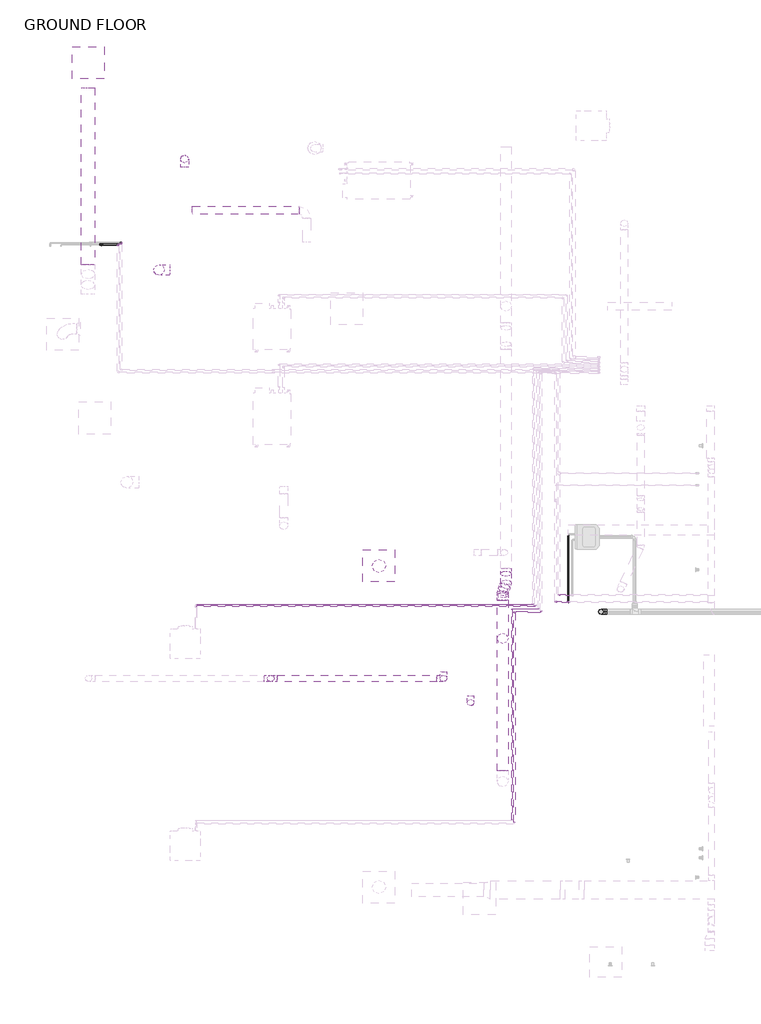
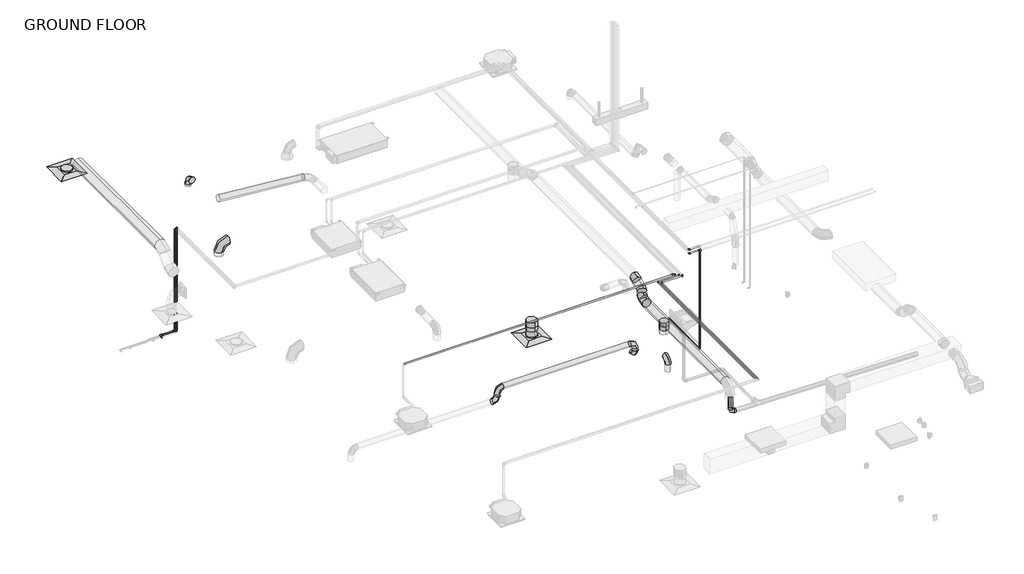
# One storey, part 11 of 21: 20 pipe fittings, 16 pipe segments, 14 duct segments, 13 duct fittings, 2 air terminals.
"""IFC4 building model written with IfcOpenShell, lengths in millimetres."""

from ifc_helpers import new_model, si_unit, point, frame, frame_2d, origin, place, context, project, spatial, circle_curve, trimmed, segment, composite_curve, outline, extrude, transform, mapped, element, save
from components import air_terminal_a1f6e78c, round_elbow_1_d_a253342a, round_elbow_1_d_b37ad80b, round_elbow_1_d_c80420c1, round_elbow_1_d_9364b203, round_elbow_1_d_5bbd179f, round_takeoff_standard_37489045, round_takeoff_standard_1d5c4ba7, bend_pvc_sch_40_dwv_standard_db232f92, elbow_generic_standard_787ffbaa, elbow_generic_standard_c06ac706, elbow_generic_standard_a088f956, tee_generic_standard_d345b28c, transition_generic_standard_19d9bb8b, transition_generic_standard_6299f23b

model = new_model("IFC4")

# Units and contexts
model_context = context("Model", 3, world=origin())
ifc_project = project(units=[si_unit("LENGTHUNIT", "METRE", prefix="MILLI")], contexts=[model_context])

# Site, building, storey
site = spatial("IfcSite", under=ifc_project)
building = spatial("IfcBuilding", under=site)
storey = spatial("IfcBuildingStorey", under=building, Name="GROUND FLOOR", Elevation=30480.0)

# Air terminals
placement = place(None, origin())
air_terminal_shape = air_terminal_a1f6e78c(model_context)
element("IfcAirTerminal", 1, ObjectType="Supply Diffuser - Rectangular Face Round Neck - Hosted : 24\"x24\" Face 10\" Neck - Hosted", at=placement, inside=storey, context=model_context, shape_type="MappedRepresentation", body=[
    mapped(air_terminal_shape, transform((-19120.4829607, 13294.7195005, 33020.0), x_axis=(-1.0, 0.0, 0.0), y_axis=(0.0, 1.0, 0.0), z_axis=(0.0, 0.0, -1.0))),
])
element("IfcAirTerminal", 2, ObjectType="Supply Diffuser - Rectangular Face Round Neck - Hosted : 24\"x24\" Face 10\" Neck - Hosted", at=placement, inside=storey, context=model_context, shape_type="MappedRepresentation", body=[
    mapped(air_terminal_shape, transform((-13605.5079607, 3749.0820005, 32715.2), x_axis=(-1.0, 0.0, 0.0), y_axis=(0.0, 1.0, 0.0), z_axis=(0.0, 0.0, -1.0))),
])

# Duct fittings
round_elbow_1_d_shape = round_elbow_1_d_a253342a(model_context)
element("IfcDuctFitting", 3, ObjectType="Round Elbow : 1 D", at=placement, inside=storey, context=model_context, shape_type="MappedRepresentation", body=[
    mapped(round_elbow_1_d_shape, transform((-17775.8704607, 9360.8945005, 33121.6), x_axis=(0.0, 0.0, 1.0), y_axis=(1.0, 0.0, 0.0), z_axis=(0.0, 1.0, 0.0))),
])
round_elbow_1_d_2_shape = round_elbow_1_d_b37ad80b(model_context)
element("IfcDuctFitting", 4, ObjectType="Round Elbow : 1 D", at=placement, inside=storey, context=model_context, shape_type="MappedRepresentation", body=[
    mapped(round_elbow_1_d_2_shape, transform((-17291.6829607, 11465.9195005, 33324.8), x_axis=(0.0, 0.0, 1.0), y_axis=(0.0, -1.0, 0.0), z_axis=(1.0, 0.0, 0.0))),
])
round_elbow_1_d_3_shape = round_elbow_1_d_c80420c1(model_context)
element("IfcDuctFitting", 5, ObjectType="Round Elbow : 1 D", at=placement, inside=storey, context=model_context, shape_type="MappedRepresentation", body=[
    mapped(round_elbow_1_d_3_shape, transform((-11866.4513201, 1153.5195005, 33121.6), x_axis=(0.0, 0.0, 1.0), y_axis=(0.0, 1.0, 0.0), z_axis=(-1.0, 0.0, 0.0))),
])
element("IfcDuctFitting", 6, ObjectType="Round Elbow : 1 D", at=placement, inside=storey, context=model_context, shape_type="MappedRepresentation", body=[
    mapped(round_elbow_1_d_3_shape, transform((-15656.5579607, 1613.8945005, 33121.6), x_axis=(1.0, 0.0, 0.0), y_axis=(0.0, 0.0, 1.0), z_axis=(0.0, -1.0, 0.0))),
])
element("IfcDuctFitting", 7, ObjectType="Round Elbow : 1 D", at=placement, inside=storey, context=model_context, shape_type="MappedRepresentation", body=[
    mapped(round_elbow_1_d_3_shape, transform((-15656.5579607, 1613.8945005, 33426.4), x_axis=(0.0, 0.0, 1.0), y_axis=(1.0, 0.0, 0.0), z_axis=(0.0, 1.0, 0.0))),
])
element("IfcDuctFitting", 8, ObjectType="Round Elbow : 1 D", at=placement, inside=storey, context=model_context, shape_type="MappedRepresentation", body=[
    mapped(round_elbow_1_d_3_shape, transform((-12379.8126806, 1613.8945005, 33426.4), x_axis=(1.0, 0.0, 0.0), y_axis=(0.0, 0.0, -1.0), z_axis=(0.0, 1.0, 0.0))),
])
element("IfcDuctFitting", 9, ObjectType="Round Elbow : 1 D", at=placement, inside=storey, context=model_context, shape_type="MappedRepresentation", body=[
    mapped(round_elbow_1_d_3_shape, transform((-12379.8126806, 1613.8945005, 33121.6), x_axis=(0.0, 0.0, -1.0), y_axis=(0.0, 1.0, 0.0), z_axis=(1.0, 0.0, 0.0))),
])
round_elbow_1_d_4_shape = round_elbow_1_d_9364b203(model_context)
element("IfcDuctFitting", 10, ObjectType="Round Elbow : 1 D", at=placement, inside=storey, context=model_context, shape_type="MappedRepresentation", body=[
    mapped(round_elbow_1_d_4_shape, transform((-11194.8892107, 3645.7099951, 33401.0), x_axis=(0.0, -1.0, 0.0), y_axis=(0.0, 0.0, -1.0), z_axis=(1.0, 0.0, 0.0))),
])
element("IfcDuctFitting", 11, ObjectType="Round Elbow : 1 D", at=placement, inside=storey, context=model_context, shape_type="MappedRepresentation", body=[
    mapped(round_elbow_1_d_4_shape, transform((-11256.8513201, 3144.8540791, 33121.6), x_axis=(0.0, 1.0, 0.0), y_axis=(0.0, 0.0, 1.0), z_axis=(1.0, 0.0, 0.0))),
])
round_elbow_1_d_5_shape = round_elbow_1_d_5bbd179f(model_context)
element("IfcDuctFitting", 12, ObjectType="Round Elbow : 1 D", at=placement, inside=storey, context=model_context, shape_type="MappedRepresentation", body=[
    mapped(round_elbow_1_d_5_shape, transform((-11194.8892107, 3397.4009398, 33262.4820194), x_axis=(0.3723469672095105, 0.8105107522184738, 0.4521394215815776), y_axis=(-0.928093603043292, 0.32517325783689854, 0.18139629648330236), z_axis=(0.0, -0.4871700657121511, 0.8733071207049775))),
])
element("IfcDuctFitting", 13, ObjectType="Round Elbow : 1 D", at=placement, inside=storey, context=model_context, shape_type="MappedRepresentation", body=[
    mapped(round_elbow_1_d_5_shape, transform((-11256.8513201, 3262.5241708, 33187.2416797), x_axis=(-0.372346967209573, -0.8105107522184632, -0.45213942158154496), y_axis=(0.9280936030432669, -0.325173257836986, -0.18139629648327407), z_axis=(0.0, -0.48717006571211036, 0.8733071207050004))),
])
round_takeoff_standard_shape = round_takeoff_standard_37489045(model_context)
element("IfcDuctFitting", 14, ObjectType="Round Takeoff : Standard", at=placement, inside=storey, context=model_context, shape_type="MappedRepresentation", body=[
    mapped(round_takeoff_standard_shape, transform((-13605.5079607, 3749.0820005, 32998.8880493), x_axis=(0.0, 0.0, -1.0), y_axis=(1.0, 0.0, 0.0), z_axis=(0.0, -1.0, 0.0))),
])
round_takeoff_standard_2_shape = round_takeoff_standard_1d5c4ba7(model_context)
element("IfcDuctFitting", 15, ObjectType="Round Takeoff : Standard", at=placement, inside=storey, context=model_context, shape_type="MappedRepresentation", body=[
    mapped(round_takeoff_standard_2_shape, transform((-11256.8513201, 2372.7195005, 33020.0), x_axis=(0.0, 0.0, -1.0), y_axis=(0.0, -1.0, 0.0), z_axis=(-1.0, 0.0, 0.0))),
])

# Duct segments
element("IfcDuctSegment", 16, ObjectType="Taps / Short Radius", at=placement, inside=storey, context=model_context, shape_type="SweptSolid", body=[
    extrude(outline(composite_curve([segment(trimmed(circle_curve(frame_2d((-17775.8704607, 9360.8945005)), 101.6), [point((-17775.8704607, 9462.4945005))], [point((-17674.2704607, 9360.8945005))], False, "CARTESIAN"), True, "CONTINUOUS"), segment(trimmed(circle_curve(frame_2d((-17775.8704607, 9360.8945005)), 101.6), [point((-17674.2704607, 9360.8945005))], [point((-17775.8704607, 9259.2945005))], False, "CARTESIAN"), True, "CONTINUOUS"), segment(trimmed(circle_curve(frame_2d((-17775.8704607, 9360.8945005)), 101.6), [point((-17775.8704607, 9259.2945005))], [point((-17877.4704607, 9360.8945005))], False, "CARTESIAN"), True, "CONTINUOUS"), segment(trimmed(circle_curve(frame_2d((-17775.8704607, 9360.8945005)), 101.6), [point((-17877.4704607, 9360.8945005))], [point((-17775.8704607, 9462.4945005))], False, "CARTESIAN"), True, "CONTINUOUS")], self_intersect=False)), frame((0.0, 0.0, 32816.8), z_axis=(0.0, 0.0, 1.0), x_axis=(1.0, 0.0, 0.0)), (0.0, 0.0, 1.0), 101.6),
])
element("IfcDuctSegment", 17, ObjectType="Taps / Short Radius", at=placement, inside=storey, context=model_context, shape_type="SweptSolid", body=[
    extrude(outline(composite_curve([segment(trimmed(circle_curve(frame_2d((-17291.6829607, 11465.9195005)), 76.2), [point((-17367.8829607, 11465.9195005))], [point((-17291.6829607, 11542.1195005))], False, "CARTESIAN"), True, "CONTINUOUS"), segment(trimmed(circle_curve(frame_2d((-17291.6829607, 11465.9195005)), 76.2), [point((-17291.6829607, 11542.1195005))], [point((-17215.4829607, 11465.9195005))], False, "CARTESIAN"), True, "CONTINUOUS"), segment(trimmed(circle_curve(frame_2d((-17291.6829607, 11465.9195005)), 76.2), [point((-17215.4829607, 11465.9195005))], [point((-17291.6829607, 11389.7195005))], False, "CARTESIAN"), True, "CONTINUOUS"), segment(trimmed(circle_curve(frame_2d((-17291.6829607, 11465.9195005)), 76.2), [point((-17291.6829607, 11389.7195005))], [point((-17367.8829607, 11465.9195005))], False, "CARTESIAN"), True, "CONTINUOUS")], self_intersect=False)), frame((0.0, 0.0, 33121.6), z_axis=(0.0, 0.0, 1.0), x_axis=(1.0, 0.0, 0.0)), (0.0, 0.0, 1.0), 50.8),
])
element("IfcDuctSegment", 18, ObjectType="Taps / Short Radius", at=placement, inside=storey, context=model_context, shape_type="SweptSolid", body=[
    extrude(outline(composite_curve([segment(trimmed(circle_curve(frame_2d((-13605.5079607, 3749.0820005)), 127.0), [point((-13478.5079607, 3749.0820005))], [point((-13605.5079607, 3622.0820005))], False, "CARTESIAN"), True, "CONTINUOUS"), segment(trimmed(circle_curve(frame_2d((-13605.5079607, 3749.0820005)), 127.0), [point((-13605.5079607, 3622.0820005))], [point((-13732.5079607, 3749.0820005))], False, "CARTESIAN"), True, "CONTINUOUS"), segment(trimmed(circle_curve(frame_2d((-13605.5079607, 3749.0820005)), 127.0), [point((-13732.5079607, 3749.0820005))], [point((-13605.5079607, 3876.0820005))], False, "CARTESIAN"), True, "CONTINUOUS"), segment(trimmed(circle_curve(frame_2d((-13605.5079607, 3749.0820005)), 127.0), [point((-13605.5079607, 3876.0820005))], [point((-13478.5079607, 3749.0820005))], False, "CARTESIAN"), True, "CONTINUOUS")], self_intersect=False)), frame((0.0, 0.0, 32769.175), z_axis=(0.0, 0.0, 1.0), x_axis=(1.0, 0.0, 0.0)), (0.0, 0.0, 1.0), 128.1010851),
])
element("IfcDuctSegment", 19, ObjectType="Taps / Short Radius", at=placement, inside=storey, context=model_context, shape_type="SweptSolid", body=[
    extrude(outline(composite_curve([segment(trimmed(circle_curve(frame_2d((-11866.4513201, 1153.5195005)), 63.5), [point((-11802.9513201, 1153.5195005))], [point((-11866.4513201, 1090.0195005))], False, "CARTESIAN"), True, "CONTINUOUS"), segment(trimmed(circle_curve(frame_2d((-11866.4513201, 1153.5195005)), 63.5), [point((-11866.4513201, 1090.0195005))], [point((-11929.9513201, 1153.5195005))], False, "CARTESIAN"), True, "CONTINUOUS"), segment(trimmed(circle_curve(frame_2d((-11866.4513201, 1153.5195005)), 63.5), [point((-11929.9513201, 1153.5195005))], [point((-11866.4513201, 1217.0195005))], False, "CARTESIAN"), True, "CONTINUOUS"), segment(trimmed(circle_curve(frame_2d((-11866.4513201, 1153.5195005)), 63.5), [point((-11866.4513201, 1217.0195005))], [point((-11802.9513201, 1153.5195005))], False, "CARTESIAN"), True, "CONTINUOUS")], self_intersect=False)), frame((0.0, 0.0, 32816.8), z_axis=(0.0, 0.0, 1.0), x_axis=(1.0, 0.0, 0.0)), (0.0, 0.0, 1.0), 177.8),
])
element("IfcDuctSegment", 20, ObjectType="Taps / Short Radius", at=placement, inside=storey, context=model_context, shape_type="SweptSolid", body=[
    extrude(outline(composite_curve([segment(trimmed(circle_curve(frame_2d((-15656.5579607, 1613.8945005)), 63.5), [point((-15656.5579607, 1550.3945005))], [point((-15720.0579607, 1613.8945005))], False, "CARTESIAN"), True, "CONTINUOUS"), segment(trimmed(circle_curve(frame_2d((-15656.5579607, 1613.8945005)), 63.5), [point((-15720.0579607, 1613.8945005))], [point((-15656.5579607, 1677.3945005))], False, "CARTESIAN"), True, "CONTINUOUS"), segment(trimmed(circle_curve(frame_2d((-15656.5579607, 1613.8945005)), 63.5), [point((-15656.5579607, 1677.3945005))], [point((-15593.0579607, 1613.8945005))], False, "CARTESIAN"), True, "CONTINUOUS"), segment(trimmed(circle_curve(frame_2d((-15656.5579607, 1613.8945005)), 63.5), [point((-15593.0579607, 1613.8945005))], [point((-15656.5579607, 1550.3945005))], False, "CARTESIAN"), True, "CONTINUOUS")], self_intersect=False)), frame((0.0, 0.0, 33248.6), z_axis=(0.0, 0.0, 1.0), x_axis=(1.0, 0.0, 0.0)), (0.0, 0.0, 1.0), 50.8),
])
element("IfcDuctSegment", 21, ObjectType="Taps / Short Radius", at=placement, inside=storey, context=model_context, shape_type="SweptSolid", body=[
    extrude(outline(composite_curve([segment(trimmed(circle_curve(frame_2d((1613.8945005, 33426.4)), 63.5), [point((1550.3945005, 33426.4))], [point((1613.8945005, 33489.9))], False, "CARTESIAN"), True, "CONTINUOUS"), segment(trimmed(circle_curve(frame_2d((1613.8945005, 33426.4)), 63.5), [point((1613.8945005, 33489.9))], [point((1677.3945005, 33426.4))], False, "CARTESIAN"), True, "CONTINUOUS"), segment(trimmed(circle_curve(frame_2d((1613.8945005, 33426.4)), 63.5), [point((1677.3945005, 33426.4))], [point((1613.8945005, 33362.9))], False, "CARTESIAN"), True, "CONTINUOUS"), segment(trimmed(circle_curve(frame_2d((1613.8945005, 33426.4)), 63.5), [point((1613.8945005, 33362.9))], [point((1550.3945005, 33426.4))], False, "CARTESIAN"), True, "CONTINUOUS")], self_intersect=False)), frame((-15529.5579607, 0.0, 0.0), z_axis=(1.0, 0.0, 0.0), x_axis=(0.0, 1.0, 0.0)), (0.0, 0.0, 1.0), 3022.7452801),
])
element("IfcDuctSegment", 22, ObjectType="Taps / Short Radius", at=placement, inside=storey, context=model_context, shape_type="SweptSolid", body=[
    extrude(outline(composite_curve([segment(trimmed(circle_curve(frame_2d((-12379.8126806, 1613.8945005)), 63.5), [point((-12379.8126806, 1677.3945005))], [point((-12316.3126806, 1613.8945005))], False, "CARTESIAN"), True, "CONTINUOUS"), segment(trimmed(circle_curve(frame_2d((-12379.8126806, 1613.8945005)), 63.5), [point((-12316.3126806, 1613.8945005))], [point((-12379.8126806, 1550.3945005))], False, "CARTESIAN"), True, "CONTINUOUS"), segment(trimmed(circle_curve(frame_2d((-12379.8126806, 1613.8945005)), 63.5), [point((-12379.8126806, 1550.3945005))], [point((-12443.3126806, 1613.8945005))], False, "CARTESIAN"), True, "CONTINUOUS"), segment(trimmed(circle_curve(frame_2d((-12379.8126806, 1613.8945005)), 63.5), [point((-12443.3126806, 1613.8945005))], [point((-12379.8126806, 1677.3945005))], False, "CARTESIAN"), True, "CONTINUOUS")], self_intersect=False)), frame((0.0, 0.0, 33248.6), z_axis=(0.0, 0.0, 1.0), x_axis=(1.0, 0.0, 0.0)), (0.0, 0.0, 1.0), 50.8),
])
element("IfcDuctSegment", 23, ObjectType="Taps / Short Radius", at=placement, inside=storey, context=model_context, shape_type="SweptSolid", body=[
    extrude(outline(composite_curve([segment(trimmed(circle_curve(frame_2d((0.0, -101.6)), 101.6), [point((-101.6, -101.6))], [point((0.0, 0.0))], False, "CARTESIAN"), True, "CONTINUOUS"), segment(trimmed(circle_curve(frame_2d((0.0, -101.6)), 101.6), [point((0.0, 0.0))], [point((101.6, -101.6))], False, "CARTESIAN"), True, "CONTINUOUS"), segment(trimmed(circle_curve(frame_2d((0.0, -101.6)), 101.6), [point((101.6, -101.6))], [point((0.0, -203.2))], False, "CARTESIAN"), True, "CONTINUOUS"), segment(trimmed(circle_curve(frame_2d((0.0, -101.6)), 101.6), [point((0.0, -203.2))], [point((-101.6, -101.6))], False, "CARTESIAN"), True, "CONTINUOUS")], self_intersect=False)), frame((-11256.8513201, 3240.49956, 33058.6159896), z_axis=(0.0, 0.8733071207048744, 0.48717006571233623), x_axis=(1.0, 0.0, 0.0)), (0.0, 0.0, 1.0), 42.6555331),
])
element("IfcDuctSegment", 24, ObjectType="Taps / Short Radius", at=placement, inside=storey, context=model_context, shape_type="SweptSolid", body=[
    extrude(outline(composite_curve([segment(trimmed(circle_curve(frame_2d((0.0, -101.6)), 101.6), [point((-101.6, -101.6))], [point((0.0, 0.0))], False, "CARTESIAN"), True, "CONTINUOUS"), segment(trimmed(circle_curve(frame_2d((0.0, -101.6)), 101.6), [point((0.0, 0.0))], [point((101.6, -101.6))], False, "CARTESIAN"), True, "CONTINUOUS"), segment(trimmed(circle_curve(frame_2d((0.0, -101.6)), 101.6), [point((101.6, -101.6))], [point((0.0, -203.2))], False, "CARTESIAN"), True, "CONTINUOUS"), segment(trimmed(circle_curve(frame_2d((0.0, -101.6)), 101.6), [point((0.0, -203.2))], [point((-101.6, -101.6))], False, "CARTESIAN"), True, "CONTINUOUS")], self_intersect=False)), frame((-11194.8892107, 3481.1671271, 33192.8712037), z_axis=(0.0, 0.8733071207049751, 0.48717006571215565), x_axis=(1.0, 0.0, 0.0)), (0.0, 0.0, 1.0), 192.2466226),
])
element("IfcDuctSegment", 25, ObjectType="Taps / Short Radius", at=placement, inside=storey, context=model_context, shape_type="SweptSolid", body=[
    extrude(outline(composite_curve([segment(trimmed(circle_curve(frame_2d((0.0, -101.6)), 101.6), [point((-99.4767358, -80.9374965))], [point((20.6625035, -2.1232642))], False, "CARTESIAN"), True, "CONTINUOUS"), segment(trimmed(circle_curve(frame_2d((0.0, -101.6)), 101.6), [point((20.6625035, -2.1232642))], [point((99.4767357, -122.2625035))], False, "CARTESIAN"), True, "CONTINUOUS"), segment(trimmed(circle_curve(frame_2d((0.0, -101.6)), 101.6), [point((99.4767357, -122.2625035))], [point((-20.6625035, -201.0767357))], False, "CARTESIAN"), True, "CONTINUOUS"), segment(trimmed(circle_curve(frame_2d((0.0, -101.6)), 101.6), [point((-20.6625035, -201.0767357))], [point((-99.4767358, -80.9374965))], False, "CARTESIAN"), True, "CONTINUOUS")], self_intersect=False)), frame((-11242.2399402, 3343.8261468, 33116.2562159), z_axis=(0.37234696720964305, 0.8105107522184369, 0.4521394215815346), x_axis=(0.928093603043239, -0.3251732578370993, -0.18139629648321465)), (0.0, 0.0, 1.0), 87.9269943),
])
element("IfcDuctSegment", 26, ObjectType="Taps / Short Radius", at=placement, inside=storey, context=model_context, shape_type="SweptSolid", body=[
    extrude(outline(composite_curve([segment(trimmed(circle_curve(frame_2d((-11256.8513201, 2372.7195005)), 101.6), [point((-11256.8513201, 2474.3195005))], [point((-11155.2513201, 2372.7195005))], False, "CARTESIAN"), True, "CONTINUOUS"), segment(trimmed(circle_curve(frame_2d((-11256.8513201, 2372.7195005)), 101.6), [point((-11155.2513201, 2372.7195005))], [point((-11256.8513201, 2271.1195005))], False, "CARTESIAN"), True, "CONTINUOUS"), segment(trimmed(circle_curve(frame_2d((-11256.8513201, 2372.7195005)), 101.6), [point((-11256.8513201, 2271.1195005))], [point((-11358.4513201, 2372.7195005))], False, "CARTESIAN"), True, "CONTINUOUS"), segment(trimmed(circle_curve(frame_2d((-11256.8513201, 2372.7195005)), 101.6), [point((-11358.4513201, 2372.7195005))], [point((-11256.8513201, 2474.3195005))], False, "CARTESIAN"), True, "CONTINUOUS")], self_intersect=False)), frame((0.0, 0.0, 32816.8), z_axis=(0.0, 0.0, 1.0), x_axis=(1.0, 0.0, 0.0)), (0.0, 0.0, 1.0), 101.6),
])
element("IfcDuctSegment", 27, ObjectType="Taps / Short Radius", at=placement, inside=storey, context=model_context, shape_type="SweptSolid", body=[
    extrude(outline(composite_curve([segment(trimmed(circle_curve(frame_2d((33121.6, -11256.8513201)), 101.6), [point((33121.6, -11358.4513201))], [point((33020.0, -11256.8513201))], False, "CARTESIAN"), True, "CONTINUOUS"), segment(trimmed(circle_curve(frame_2d((33121.6, -11256.8513201)), 101.6), [point((33020.0, -11256.8513201))], [point((33121.6, -11155.2513201))], False, "CARTESIAN"), True, "CONTINUOUS"), segment(trimmed(circle_curve(frame_2d((33121.6, -11256.8513201)), 101.6), [point((33121.6, -11155.2513201))], [point((33223.2, -11256.8513201))], False, "CARTESIAN"), True, "CONTINUOUS"), segment(trimmed(circle_curve(frame_2d((33121.6, -11256.8513201)), 101.6), [point((33223.2, -11256.8513201))], [point((33121.6, -11358.4513201))], False, "CARTESIAN"), True, "CONTINUOUS")], self_intersect=False)), frame((0.0, -138.7054995, 0.0), z_axis=(0.0, 1.0, 0.0), x_axis=(0.0, 0.0, 1.0)), (0.0, 0.0, 1.0), 3230.7156235),
])
element("IfcDuctSegment", 28, ObjectType="Taps / Short Radius", at=placement, inside=storey, context=model_context, shape_type="SweptSolid", body=[
    extrude(outline(composite_curve([segment(trimmed(circle_curve(frame_2d((0.0, -76.2)), 76.2), [point((0.0, -152.4))], [point((-76.2000001, -76.2))], False, "CARTESIAN"), True, "CONTINUOUS"), segment(trimmed(circle_curve(frame_2d((0.0, -76.2)), 76.2), [point((-76.2000001, -76.2))], [point((0.0, 0.0))], False, "CARTESIAN"), True, "CONTINUOUS"), segment(trimmed(circle_curve(frame_2d((0.0, -76.2)), 76.2), [point((0.0, 0.0))], [point((76.2, -76.2))], False, "CARTESIAN"), True, "CONTINUOUS"), segment(trimmed(circle_curve(frame_2d((0.0, -76.2)), 76.2), [point((76.2, -76.2))], [point((0.0, -152.4))], False, "CARTESIAN"), True, "CONTINUOUS")], self_intersect=False)), frame((-15121.8533092, 10574.5395797, 33134.8878573), z_axis=(-0.9961916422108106, 0.0, 0.0871906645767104), x_axis=(0.0871906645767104, 0.0, 0.9961916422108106)), (0.0, 0.0, 1.0), 2025.7247298),
])
element("IfcDuctSegment", 29, ObjectType="Taps / Short Radius", at=placement, inside=storey, context=model_context, shape_type="SweptSolid", body=[
    extrude(outline(composite_curve([segment(trimmed(circle_curve(frame_2d((33477.2, -19120.4829607)), 127.0), [point((33477.2, -18993.4829607))], [point((33604.2, -19120.4829607))], False, "CARTESIAN"), True, "CONTINUOUS"), segment(trimmed(circle_curve(frame_2d((33477.2, -19120.4829607)), 127.0), [point((33604.2, -19120.4829607))], [point((33477.2, -19247.4829607))], False, "CARTESIAN"), True, "CONTINUOUS"), segment(trimmed(circle_curve(frame_2d((33477.2, -19120.4829607)), 127.0), [point((33477.2, -19247.4829607))], [point((33350.2, -19120.4829607))], False, "CARTESIAN"), True, "CONTINUOUS"), segment(trimmed(circle_curve(frame_2d((33477.2, -19120.4829607)), 127.0), [point((33350.2, -19120.4829607))], [point((33477.2, -18993.4829607))], False, "CARTESIAN"), True, "CONTINUOUS")], self_intersect=False)), frame((0.0, 9460.0506372, 0.0), z_axis=(0.0, 1.0, 0.0), x_axis=(0.0, 0.0, 1.0)), (0.0, 0.0, 1.0), 3355.4014425),
])

# Pipe fittings
bend_pvc_sch_40_dwv_standard_shape = bend_pvc_sch_40_dwv_standard_db232f92(model_context)
element("IfcPipeFitting", 30, ObjectType="Bend - PVC - Sch 40 - DWV : Standard", at=placement, inside=storey, context=model_context, shape_type="MappedRepresentation", body=[
    mapped(bend_pvc_sch_40_dwv_standard_shape, transform((-9390.6954607, 2877.5445005, 29870.4), x_axis=(0.0, 0.0, -1.0), y_axis=(1.0, 0.0, 0.0), z_axis=(0.0, -1.0, 0.0))),
])
elbow_generic_standard_shape = elbow_generic_standard_787ffbaa(model_context)
element("IfcPipeFitting", 31, ObjectType="Elbow - Generic : Standard", at=placement, inside=storey, context=model_context, shape_type="MappedRepresentation", body=[
    mapped(elbow_generic_standard_shape, transform((-18871.1484822, 9844.2892607, 30835.6), x_axis=(0.0, 0.0, -1.0), y_axis=(0.0, -1.0, 0.0), z_axis=(-1.0, 0.0, 0.0))),
])
elbow_generic_standard_2_shape = elbow_generic_standard_c06ac706(model_context)
element("IfcPipeFitting", 32, ObjectType="Elbow - Generic : Standard", at=placement, inside=storey, context=model_context, shape_type="MappedRepresentation", body=[
    mapped(elbow_generic_standard_2_shape, transform((-10635.1515455, 2984.2674809, 33680.4), x_axis=(1.0, 0.0, 0.0), y_axis=(0.0, 1.0, 0.0), z_axis=(0.0, 0.0, 1.0))),
])
element("IfcPipeFitting", 33, ObjectType="Elbow - Generic : Standard", at=placement, inside=storey, context=model_context, shape_type="MappedRepresentation", body=[
    mapped(elbow_generic_standard_2_shape, transform((-11032.9642107, 2875.8543566, 33680.4), x_axis=(-1.0, 0.0, 0.0), y_axis=(0.0, -1.0, 0.0), z_axis=(0.0, 0.0, 1.0))),
])
element("IfcPipeFitting", 34, ObjectType="Elbow - Generic : Standard", at=placement, inside=storey, context=model_context, shape_type="MappedRepresentation", body=[
    mapped(elbow_generic_standard_2_shape, transform((-10524.9642107, 2875.8543566, 33680.4), x_axis=(1.0, 0.0, 0.0), y_axis=(0.0, 1.0, 0.0), z_axis=(0.0, 0.0, 1.0))),
])
element("IfcPipeFitting", 35, ObjectType="Elbow - Generic : Standard", at=placement, inside=storey, context=model_context, shape_type="MappedRepresentation", body=[
    mapped(elbow_generic_standard_2_shape, transform((-10189.2079607, 3193.0718518, 34023.3), x_axis=(0.0, -1.0, 0.0), y_axis=(0.9999999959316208, 0.0, -9.020398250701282e-05), z_axis=(9.020398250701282e-05, 0.0, 0.9999999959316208))),
])
element("IfcPipeFitting", 36, ObjectType="Elbow - Generic : Standard", at=placement, inside=storey, context=model_context, shape_type="MappedRepresentation", body=[
    mapped(elbow_generic_standard_2_shape, transform((-18495.0079607, 9873.2718518, 33436.8475147), x_axis=(0.0, 1.0, 0.0), y_axis=(0.0, 0.0, -1.0), z_axis=(-1.0, 0.0, 0.0))),
])
element("IfcPipeFitting", 37, ObjectType="Elbow - Generic : Standard", at=placement, inside=storey, context=model_context, shape_type="MappedRepresentation", body=[
    mapped(elbow_generic_standard_2_shape, transform((-10252.7079607, 3066.0718518, 34023.3), x_axis=(0.0, -1.0, 0.0), y_axis=(1.0, 0.0, 0.0), z_axis=(0.0, 0.0, 1.0))),
])
element("IfcPipeFitting", 38, ObjectType="Elbow - Generic : Standard", at=placement, inside=storey, context=model_context, shape_type="MappedRepresentation", body=[
    mapped(elbow_generic_standard_2_shape, transform((-18552.1579607, 9844.2892607, 33436.8475147), x_axis=(0.0, 1.0, 0.0), y_axis=(0.0, 0.0, -1.0), z_axis=(-1.0, 0.0, 0.0))),
])
element("IfcPipeFitting", 39, ObjectType="Elbow - Generic : Standard", at=placement, inside=storey, context=model_context, shape_type="MappedRepresentation", body=[
    mapped(elbow_generic_standard_2_shape, transform((-18552.1579607, 9844.2892607, 30886.4), x_axis=(0.0, 0.0, -1.0), y_axis=(-1.0, 0.0, 0.0), z_axis=(0.0, 1.0, 0.0))),
])
element("IfcPipeFitting", 40, ObjectType="Elbow - Generic : Standard", at=placement, inside=storey, context=model_context, shape_type="MappedRepresentation", body=[
    mapped(elbow_generic_standard_2_shape, transform((-18495.0079607, 9873.2718518, 30835.6), x_axis=(0.0, 0.0, -1.0), y_axis=(-1.0, 0.0, 0.0), z_axis=(0.0, 1.0, 0.0))),
])
elbow_generic_standard_3_shape = elbow_generic_standard_a088f956(model_context)
element("IfcPipeFitting", 41, ObjectType="Elbow - Generic : Standard", at=placement, inside=storey, context=model_context, shape_type="MappedRepresentation", body=[
    mapped(elbow_generic_standard_3_shape, transform((-10682.7765455, 3013.8265677, 33680.4), x_axis=(1.0, 0.0, 0.0), y_axis=(0.0, 1.0, 0.0), z_axis=(0.0, 0.0, 1.0))),
])
element("IfcPipeFitting", 42, ObjectType="Elbow - Generic : Standard", at=placement, inside=storey, context=model_context, shape_type="MappedRepresentation", body=[
    mapped(elbow_generic_standard_3_shape, transform((-11080.664993, 2930.0843297, 33680.4), x_axis=(-1.0, 0.0, 0.0), y_axis=(0.0, -1.0, 0.0), z_axis=(0.0, 0.0, 1.0))),
])
element("IfcPipeFitting", 43, ObjectType="Elbow - Generic : Standard", at=placement, inside=storey, context=model_context, shape_type="MappedRepresentation", body=[
    mapped(elbow_generic_standard_3_shape, transform((-10572.5892107, 2930.0843297, 33680.4), x_axis=(1.0, 0.0, 0.0), y_axis=(0.0, 1.0, 0.0), z_axis=(0.0, 0.0, 1.0))),
])
element("IfcPipeFitting", 44, ObjectType="Elbow - Generic : Standard", at=placement, inside=storey, context=model_context, shape_type="MappedRepresentation", body=[
    mapped(elbow_generic_standard_3_shape, transform((-10009.8204607, 3066.0718518, 31546.8), x_axis=(0.0, 0.0, -1.0), y_axis=(0.0, 1.0, 0.0), z_axis=(1.0, 0.0, 0.0))),
])
tee_generic_standard_shape = tee_generic_standard_d345b28c(model_context)
element("IfcPipeFitting", 45, ObjectType="Tee - Generic : Standard", at=placement, inside=storey, context=model_context, shape_type="MappedRepresentation", body=[
    mapped(tee_generic_standard_shape, transform((-18871.1484822, 9844.2892607, 30886.4), x_axis=(1.0, 0.0, 0.0), y_axis=(0.0, 0.0, 1.0), z_axis=(0.0, -1.0, 0.0))),
])
element("IfcPipeFitting", 46, ObjectType="Tee - Generic : Standard", at=placement, inside=storey, context=model_context, shape_type="MappedRepresentation", body=[
    mapped(tee_generic_standard_shape, transform((-10009.8204607, 3066.0718518, 34023.3), x_axis=(1.0, 0.0, 0.0), y_axis=(0.0, 0.0, 1.0), z_axis=(0.0, -1.0, 0.0))),
])
transition_generic_standard_shape = transition_generic_standard_19d9bb8b(model_context)
element("IfcPipeFitting", 47, ObjectType="Transition - Generic : Standard", at=placement, inside=storey, context=model_context, shape_type="MappedRepresentation", body=[
    mapped(transition_generic_standard_shape, transform((-10009.8204607, 3066.0718518, 31568.23125), x_axis=(0.0, 0.0, -1.0), y_axis=(-1.0, 0.0, 0.0), z_axis=(0.0, 1.0, 0.0))),
])
transition_generic_standard_2_shape = transition_generic_standard_6299f23b(model_context)
element("IfcPipeFitting", 48, ObjectType="Transition - Generic : Standard", at=placement, inside=storey, context=model_context, shape_type="MappedRepresentation", body=[
    mapped(transition_generic_standard_2_shape, transform((-18898.1359822, 9844.2892607, 30886.4), x_axis=(-1.0, 0.0, 0.0), y_axis=(0.0, -1.0, 0.0), z_axis=(0.0, 0.0, 1.0))),
])
element("IfcPipeFitting", 49, ObjectType="Transition - Generic : Standard", at=placement, inside=storey, context=model_context, shape_type="MappedRepresentation", body=[
    mapped(transition_generic_standard_2_shape, transform((-18871.1484822, 9844.2892607, 30859.4125), x_axis=(0.0, 0.0, -1.0), y_axis=(1.0, 0.0, 0.0), z_axis=(0.0, -1.0, 0.0))),
])

# Pipe segments
element("IfcPipeSegment", 50, ObjectType="Copper", at=placement, inside=storey, context=model_context, shape_type="SweptSolid", body=[
    extrude(outline(composite_curve([segment(trimmed(circle_curve(frame_2d((3013.8265677, 33680.4)), 7.9375), [point((3005.8890677, 33680.4))], [point((3013.8265677, 33688.3375))], False, "CARTESIAN"), True, "CONTINUOUS"), segment(trimmed(circle_curve(frame_2d((3013.8265677, 33680.4)), 7.9375), [point((3013.8265677, 33688.3375))], [point((3021.7640677, 33680.4))], False, "CARTESIAN"), True, "CONTINUOUS"), segment(trimmed(circle_curve(frame_2d((3013.8265677, 33680.4)), 7.9375), [point((3021.7640677, 33680.4))], [point((3013.8265677, 33672.4625))], False, "CARTESIAN"), True, "CONTINUOUS"), segment(trimmed(circle_curve(frame_2d((3013.8265677, 33680.4)), 7.9375), [point((3013.8265677, 33672.4625))], [point((3005.8890677, 33680.4))], False, "CARTESIAN"), True, "CONTINUOUS")], self_intersect=False)), frame((-17060.7017107, 0.0, 0.0), z_axis=(1.0, 0.0, 0.0), x_axis=(0.0, 1.0, 0.0)), (0.0, 0.0, 1.0), 6363.6376652),
])
element("IfcPipeSegment", 51, ObjectType="Copper", at=placement, inside=storey, context=model_context, shape_type="SweptSolid", body=[
    extrude(outline(composite_curve([segment(trimmed(circle_curve(frame_2d((2984.2674809, 33680.4)), 14.2875), [point((2969.9799809, 33680.4))], [point((2984.2674809, 33694.6875))], False, "CARTESIAN"), True, "CONTINUOUS"), segment(trimmed(circle_curve(frame_2d((2984.2674809, 33680.4)), 14.2875), [point((2984.2674809, 33694.6875))], [point((2998.5549809, 33680.4))], False, "CARTESIAN"), True, "CONTINUOUS"), segment(trimmed(circle_curve(frame_2d((2984.2674809, 33680.4)), 14.2875), [point((2998.5549809, 33680.4))], [point((2984.2674809, 33666.1125))], False, "CARTESIAN"), True, "CONTINUOUS"), segment(trimmed(circle_curve(frame_2d((2984.2674809, 33680.4)), 14.2875), [point((2984.2674809, 33666.1125))], [point((2969.9799809, 33680.4))], False, "CARTESIAN"), True, "CONTINUOUS")], self_intersect=False)), frame((-17057.5267107, 0.0, 0.0), z_axis=(1.0, 0.0, 0.0), x_axis=(0.0, 1.0, 0.0)), (0.0, 0.0, 1.0), 6401.7376652),
])
element("IfcPipeSegment", 52, ObjectType="Copper", at=placement, inside=storey, context=model_context, shape_type="SweptSolid", body=[
    extrude(outline(composite_curve([segment(trimmed(circle_curve(frame_2d((33680.4, -11080.664993)), 7.9375), [point((33680.4, -11072.727493))], [point((33688.3375, -11080.664993))], False, "CARTESIAN"), True, "CONTINUOUS"), segment(trimmed(circle_curve(frame_2d((33680.4, -11080.664993)), 7.9375), [point((33688.3375, -11080.664993))], [point((33680.4, -11088.602493))], False, "CARTESIAN"), True, "CONTINUOUS"), segment(trimmed(circle_curve(frame_2d((33680.4, -11080.664993)), 7.9375), [point((33680.4, -11088.602493))], [point((33672.4625, -11080.664993))], False, "CARTESIAN"), True, "CONTINUOUS"), segment(trimmed(circle_curve(frame_2d((33680.4, -11080.664993)), 7.9375), [point((33672.4625, -11080.664993))], [point((33680.4, -11072.727493))], False, "CARTESIAN"), True, "CONTINUOUS")], self_intersect=False)), frame((0.0, -1068.8281703, 0.0), z_axis=(0.0, 1.0, 0.0), x_axis=(0.0, 0.0, 1.0)), (0.0, 0.0, 1.0), 3984.625),
])
element("IfcPipeSegment", 53, ObjectType="Copper", at=placement, inside=storey, context=model_context, shape_type="SweptSolid", body=[
    extrude(outline(composite_curve([segment(trimmed(circle_curve(frame_2d((2930.0843297, 33680.4)), 7.9375), [point((2922.1468297, 33680.4))], [point((2930.0843297, 33688.3375))], False, "CARTESIAN"), True, "CONTINUOUS"), segment(trimmed(circle_curve(frame_2d((2930.0843297, 33680.4)), 7.9375), [point((2930.0843297, 33688.3375))], [point((2938.0218297, 33680.4))], False, "CARTESIAN"), True, "CONTINUOUS"), segment(trimmed(circle_curve(frame_2d((2930.0843297, 33680.4)), 7.9375), [point((2938.0218297, 33680.4))], [point((2930.0843297, 33672.4625))], False, "CARTESIAN"), True, "CONTINUOUS"), segment(trimmed(circle_curve(frame_2d((2930.0843297, 33680.4)), 7.9375), [point((2930.0843297, 33672.4625))], [point((2922.1468297, 33680.4))], False, "CARTESIAN"), True, "CONTINUOUS")], self_intersect=False)), frame((-11066.377493, 0.0, 0.0), z_axis=(1.0, 0.0, 0.0), x_axis=(0.0, 1.0, 0.0)), (0.0, 0.0, 1.0), 479.5007823),
])
element("IfcPipeSegment", 54, ObjectType="Copper", at=placement, inside=storey, context=model_context, shape_type="SweptSolid", body=[
    extrude(outline(composite_curve([segment(trimmed(circle_curve(frame_2d((33680.4, -11032.9642107)), 14.2875), [point((33680.4, -11018.6767107))], [point((33694.6875, -11032.9642107))], False, "CARTESIAN"), True, "CONTINUOUS"), segment(trimmed(circle_curve(frame_2d((33680.4, -11032.9642107)), 14.2875), [point((33694.6875, -11032.9642107))], [point((33680.4, -11047.2517107))], False, "CARTESIAN"), True, "CONTINUOUS"), segment(trimmed(circle_curve(frame_2d((33680.4, -11032.9642107)), 14.2875), [point((33680.4, -11047.2517107))], [point((33666.1125, -11032.9642107))], False, "CARTESIAN"), True, "CONTINUOUS"), segment(trimmed(circle_curve(frame_2d((33680.4, -11032.9642107)), 14.2875), [point((33666.1125, -11032.9642107))], [point((33680.4, -11018.6767107))], False, "CARTESIAN"), True, "CONTINUOUS")], self_intersect=False)), frame((0.0, -1116.7081434, 0.0), z_axis=(0.0, 1.0, 0.0), x_axis=(0.0, 0.0, 1.0)), (0.0, 0.0, 1.0), 3971.925),
])
element("IfcPipeSegment", 55, ObjectType="Copper", at=placement, inside=storey, context=model_context, shape_type="SweptSolid", body=[
    extrude(outline(composite_curve([segment(trimmed(circle_curve(frame_2d((2875.8543566, 33680.4)), 14.2875), [point((2861.5668566, 33680.4))], [point((2875.8543566, 33694.6875))], False, "CARTESIAN"), True, "CONTINUOUS"), segment(trimmed(circle_curve(frame_2d((2875.8543566, 33680.4)), 14.2875), [point((2875.8543566, 33694.6875))], [point((2890.1418566, 33680.4))], False, "CARTESIAN"), True, "CONTINUOUS"), segment(trimmed(circle_curve(frame_2d((2875.8543566, 33680.4)), 14.2875), [point((2890.1418566, 33680.4))], [point((2875.8543566, 33666.1125))], False, "CARTESIAN"), True, "CONTINUOUS"), segment(trimmed(circle_curve(frame_2d((2875.8543566, 33680.4)), 14.2875), [point((2875.8543566, 33666.1125))], [point((2861.5668566, 33680.4))], False, "CARTESIAN"), True, "CONTINUOUS")], self_intersect=False)), frame((-11012.3267107, 0.0, 0.0), z_axis=(1.0, 0.0, 0.0), x_axis=(0.0, 1.0, 0.0)), (0.0, 0.0, 1.0), 466.725),
])
element("IfcPipeSegment", 56, ObjectType="Copper", at=placement, inside=storey, context=model_context, shape_type="SweptSolid", body=[
    extrude(outline(composite_curve([segment(trimmed(circle_curve(frame_2d((-10009.8204607, 3066.0718518)), 14.2875), [point((-9995.5329607, 3066.0718518))], [point((-10009.8204607, 3051.7843518))], False, "CARTESIAN"), True, "CONTINUOUS"), segment(trimmed(circle_curve(frame_2d((-10009.8204607, 3066.0718518)), 14.2875), [point((-10009.8204607, 3051.7843518))], [point((-10024.1079607, 3066.0718518))], False, "CARTESIAN"), True, "CONTINUOUS"), segment(trimmed(circle_curve(frame_2d((-10009.8204607, 3066.0718518)), 14.2875), [point((-10024.1079607, 3066.0718518))], [point((-10009.8204607, 3080.3593518))], False, "CARTESIAN"), True, "CONTINUOUS"), segment(trimmed(circle_curve(frame_2d((-10009.8204607, 3066.0718518)), 14.2875), [point((-10009.8204607, 3080.3593518))], [point((-9995.5329607, 3066.0718518))], False, "CARTESIAN"), True, "CONTINUOUS")], self_intersect=False)), frame((0.0, 0.0, 31568.23125), z_axis=(0.0, 0.0, 1.0), x_axis=(1.0, 0.0, 0.0)), (0.0, 0.0, 1.0), 2428.08125),
])
element("IfcPipeSegment", 57, ObjectType="Copper", at=placement, inside=storey, context=model_context, shape_type="SweptSolid", body=[
    extrude(outline(composite_curve([segment(trimmed(circle_curve(frame_2d((3193.0718518, 34023.2981384)), 14.2875), [point((3207.3593518, 34023.2981384))], [point((3193.0718518, 34009.0106384))], False, "CARTESIAN"), True, "CONTINUOUS"), segment(trimmed(circle_curve(frame_2d((3193.0718518, 34023.2981384)), 14.2875), [point((3193.0718518, 34009.0106384))], [point((3178.7843518, 34023.2981384))], False, "CARTESIAN"), True, "CONTINUOUS"), segment(trimmed(circle_curve(frame_2d((3193.0718518, 34023.2981384)), 14.2875), [point((3178.7843518, 34023.2981384))], [point((3193.0718518, 34037.5856384))], False, "CARTESIAN"), True, "CONTINUOUS"), segment(trimmed(circle_curve(frame_2d((3193.0718518, 34023.2981384)), 14.2875), [point((3193.0718518, 34037.5856384))], [point((3207.3593518, 34023.2981384))], False, "CARTESIAN"), True, "CONTINUOUS")], self_intersect=False)), frame((-10168.5704608, 0.0, 0.0), z_axis=(1.0, 0.0, 0.0), x_axis=(0.0, 1.0, 0.0)), (0.0, 0.0, 1.0), 207.9625001),
])
element("IfcPipeSegment", 58, ObjectType="Copper", at=placement, inside=storey, context=model_context, shape_type="SweptSolid", body=[
    extrude(outline(composite_curve([segment(trimmed(circle_curve(frame_2d((-18495.0079607, 9873.2718518)), 14.2875), [point((-18480.7204607, 9873.2718518))], [point((-18495.0079607, 9858.9843518))], False, "CARTESIAN"), True, "CONTINUOUS"), segment(trimmed(circle_curve(frame_2d((-18495.0079607, 9873.2718518)), 14.2875), [point((-18495.0079607, 9858.9843518))], [point((-18509.2954607, 9873.2718518))], False, "CARTESIAN"), True, "CONTINUOUS"), segment(trimmed(circle_curve(frame_2d((-18495.0079607, 9873.2718518)), 14.2875), [point((-18509.2954607, 9873.2718518))], [point((-18495.0079607, 9887.5593518))], False, "CARTESIAN"), True, "CONTINUOUS"), segment(trimmed(circle_curve(frame_2d((-18495.0079607, 9873.2718518)), 14.2875), [point((-18495.0079607, 9887.5593518))], [point((-18480.7204607, 9873.2718518))], False, "CARTESIAN"), True, "CONTINUOUS")], self_intersect=False)), frame((0.0, 0.0, 30856.2375), z_axis=(0.0, 0.0, 1.0), x_axis=(1.0, 0.0, 0.0)), (0.0, 0.0, 1.0), 2559.9725147),
])
element("IfcPipeSegment", 59, ObjectType="Copper", at=placement, inside=storey, context=model_context, shape_type="SweptSolid", body=[
    extrude(outline(composite_curve([segment(trimmed(circle_curve(frame_2d((3066.0718518, 34023.3)), 14.2875), [point((3080.3593518, 34023.3))], [point((3066.0718518, 34009.0125))], False, "CARTESIAN"), True, "CONTINUOUS"), segment(trimmed(circle_curve(frame_2d((3066.0718518, 34023.3)), 14.2875), [point((3066.0718518, 34009.0125))], [point((3051.7843518, 34023.3))], False, "CARTESIAN"), True, "CONTINUOUS"), segment(trimmed(circle_curve(frame_2d((3066.0718518, 34023.3)), 14.2875), [point((3051.7843518, 34023.3))], [point((3066.0718518, 34037.5875))], False, "CARTESIAN"), True, "CONTINUOUS"), segment(trimmed(circle_curve(frame_2d((3066.0718518, 34023.3)), 14.2875), [point((3066.0718518, 34037.5875))], [point((3080.3593518, 34023.3))], False, "CARTESIAN"), True, "CONTINUOUS")], self_intersect=False)), frame((-10232.0704607, 0.0, 0.0), z_axis=(1.0, 0.0, 0.0), x_axis=(0.0, 1.0, 0.0)), (0.0, 0.0, 1.0), 195.2625),
])
element("IfcPipeSegment", 60, ObjectType="Copper", at=placement, inside=storey, context=model_context, shape_type="SweptSolid", body=[
    extrude(outline(composite_curve([segment(trimmed(circle_curve(frame_2d((-18552.1579607, 9844.2892607)), 14.2875), [point((-18537.8704607, 9844.2892607))], [point((-18552.1579607, 9830.0017607))], False, "CARTESIAN"), True, "CONTINUOUS"), segment(trimmed(circle_curve(frame_2d((-18552.1579607, 9844.2892607)), 14.2875), [point((-18552.1579607, 9830.0017607))], [point((-18566.4454607, 9844.2892607))], False, "CARTESIAN"), True, "CONTINUOUS"), segment(trimmed(circle_curve(frame_2d((-18552.1579607, 9844.2892607)), 14.2875), [point((-18566.4454607, 9844.2892607))], [point((-18552.1579607, 9858.5767607))], False, "CARTESIAN"), True, "CONTINUOUS"), segment(trimmed(circle_curve(frame_2d((-18552.1579607, 9844.2892607)), 14.2875), [point((-18552.1579607, 9858.5767607))], [point((-18537.8704607, 9844.2892607))], False, "CARTESIAN"), True, "CONTINUOUS")], self_intersect=False)), frame((0.0, 0.0, 30907.0375), z_axis=(0.0, 0.0, 1.0), x_axis=(1.0, 0.0, 0.0)), (0.0, 0.0, 1.0), 2509.1725147),
])
element("IfcPipeSegment", 61, ObjectType="Copper", at=placement, inside=storey, context=model_context, shape_type="SweptSolid", body=[
    extrude(outline(composite_curve([segment(trimmed(circle_curve(frame_2d((0.0, -4.7625)), 4.7625), [point((0.0, 0.0))], [point((4.7625, -4.7625))], False, "CARTESIAN"), True, "CONTINUOUS"), segment(trimmed(circle_curve(frame_2d((0.0, -4.7625)), 4.7625), [point((4.7625, -4.7625))], [point((0.0, -9.525))], False, "CARTESIAN"), True, "CONTINUOUS"), segment(trimmed(circle_curve(frame_2d((0.0, -4.7625)), 4.7625), [point((0.0, -9.525))], [point((-4.7625, -4.7625))], False, "CARTESIAN"), True, "CONTINUOUS"), segment(trimmed(circle_curve(frame_2d((0.0, -4.7625)), 4.7625), [point((-4.7625, -4.7625))], [point((0.0, 0.0))], False, "CARTESIAN"), True, "CONTINUOUS")], self_intersect=False)), frame((-18875.9109822, 9821.7953567, 30835.6), z_axis=(-3.4106051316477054e-12, 1.0, 0.0), x_axis=(0.0, 0.0, -1.0)), (0.0, 0.0, 1.0), 11.381404),
])
element("IfcPipeSegment", 62, ObjectType="Copper", at=placement, inside=storey, context=model_context, shape_type="SweptSolid", body=[
    extrude(outline(composite_curve([segment(trimmed(circle_curve(frame_2d((-18871.1484822, 9844.2892607)), 4.7625), [point((-18866.3859822, 9844.2892607))], [point((-18871.1484822, 9839.5267607))], False, "CARTESIAN"), True, "CONTINUOUS"), segment(trimmed(circle_curve(frame_2d((-18871.1484822, 9844.2892607)), 4.7625), [point((-18871.1484822, 9839.5267607))], [point((-18875.9109822, 9844.2892607))], False, "CARTESIAN"), True, "CONTINUOUS"), segment(trimmed(circle_curve(frame_2d((-18871.1484822, 9844.2892607)), 4.7625), [point((-18875.9109822, 9844.2892607))], [point((-18871.1484822, 9849.0517607))], False, "CARTESIAN"), True, "CONTINUOUS"), segment(trimmed(circle_curve(frame_2d((-18871.1484822, 9844.2892607)), 4.7625), [point((-18871.1484822, 9849.0517607))], [point((-18866.3859822, 9844.2892607))], False, "CARTESIAN"), True, "CONTINUOUS")], self_intersect=False)), frame((0.0, 0.0, 30846.7125), z_axis=(0.0, 0.0, 1.0), x_axis=(1.0, 0.0, 0.0)), (0.0, 0.0, 1.0), 5.55625),
])
element("IfcPipeSegment", 63, ObjectType="Copper", at=placement, inside=storey, context=model_context, shape_type="SweptSolid", body=[
    extrude(outline(composite_curve([segment(trimmed(circle_curve(frame_2d((9844.2892607, 30886.4)), 14.2875), [point((9858.5767607, 30886.4))], [point((9844.2892607, 30872.1125))], False, "CARTESIAN"), True, "CONTINUOUS"), segment(trimmed(circle_curve(frame_2d((9844.2892607, 30886.4)), 14.2875), [point((9844.2892607, 30872.1125))], [point((9830.0017607, 30886.4))], False, "CARTESIAN"), True, "CONTINUOUS"), segment(trimmed(circle_curve(frame_2d((9844.2892607, 30886.4)), 14.2875), [point((9830.0017607, 30886.4))], [point((9844.2892607, 30900.6875))], False, "CARTESIAN"), True, "CONTINUOUS"), segment(trimmed(circle_curve(frame_2d((9844.2892607, 30886.4)), 14.2875), [point((9844.2892607, 30900.6875))], [point((9858.5767607, 30886.4))], False, "CARTESIAN"), True, "CONTINUOUS")], self_intersect=False)), frame((-18844.1609822, 0.0, 0.0), z_axis=(1.0, 0.0, 0.0), x_axis=(0.0, 1.0, 0.0)), (0.0, 0.0, 1.0), 271.3655215),
])
element("IfcPipeSegment", 64, ObjectType="Copper", at=placement, inside=storey, context=model_context, shape_type="SweptSolid", body=[
    extrude(outline(composite_curve([segment(trimmed(circle_curve(frame_2d((31546.8, -10009.8204607)), 7.9375), [point((31546.8, -10017.7579607))], [point((31538.8625, -10009.8204607))], False, "CARTESIAN"), True, "CONTINUOUS"), segment(trimmed(circle_curve(frame_2d((31546.8, -10009.8204607)), 7.9375), [point((31538.8625, -10009.8204607))], [point((31546.8, -10001.8829607))], False, "CARTESIAN"), True, "CONTINUOUS"), segment(trimmed(circle_curve(frame_2d((31546.8, -10009.8204607)), 7.9375), [point((31546.8, -10001.8829607))], [point((31554.7375, -10009.8204607))], False, "CARTESIAN"), True, "CONTINUOUS"), segment(trimmed(circle_curve(frame_2d((31546.8, -10009.8204607)), 7.9375), [point((31554.7375, -10009.8204607))], [point((31546.8, -10017.7579607))], False, "CARTESIAN"), True, "CONTINUOUS")], self_intersect=False)), frame((0.0, 3080.3593518, 0.0), z_axis=(0.0, 1.0, 0.0), x_axis=(0.0, 0.0, 1.0)), (0.0, 0.0, 1.0), 1252.9226487),
])
element("IfcPipeSegment", 65, ObjectType="PVC - DWV", at=placement, inside=storey, context=model_context, shape_type="SweptSolid", body=[
    extrude(outline(composite_curve([segment(trimmed(circle_curve(frame_2d((-9390.6954607, 2877.5445005)), 44.45), [point((-9346.2454607, 2877.5445005))], [point((-9390.6954607, 2833.0945005))], False, "CARTESIAN"), True, "CONTINUOUS"), segment(trimmed(circle_curve(frame_2d((-9390.6954607, 2877.5445005)), 44.45), [point((-9390.6954607, 2833.0945005))], [point((-9435.1454607, 2877.5445005))], False, "CARTESIAN"), True, "CONTINUOUS"), segment(trimmed(circle_curve(frame_2d((-9390.6954607, 2877.5445005)), 44.45), [point((-9435.1454607, 2877.5445005))], [point((-9390.6954607, 2921.9945005))], False, "CARTESIAN"), True, "CONTINUOUS"), segment(trimmed(circle_curve(frame_2d((-9390.6954607, 2877.5445005)), 44.45), [point((-9390.6954607, 2921.9945005))], [point((-9346.2454607, 2877.5445005))], False, "CARTESIAN"), True, "CONTINUOUS")], self_intersect=False)), frame((0.0, 0.0, 29986.3002), z_axis=(0.0, 0.0, 1.0), x_axis=(1.0, 0.0, 0.0)), (0.0, 0.0, 1.0), 493.6998),
])

save(model, "model.ifc")
